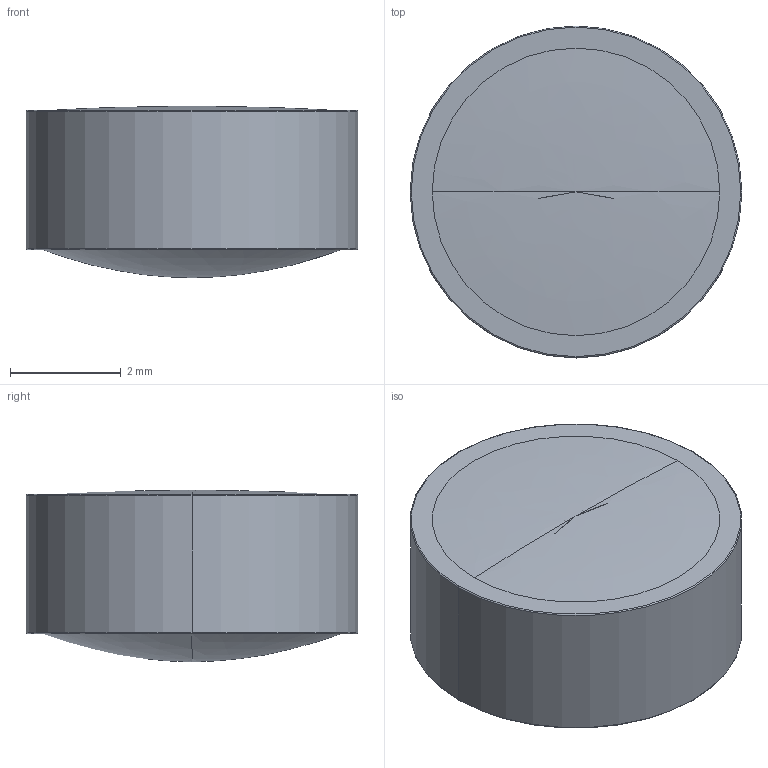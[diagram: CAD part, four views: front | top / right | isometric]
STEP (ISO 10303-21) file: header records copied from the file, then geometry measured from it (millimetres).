
FILE_DESCRIPTION((''),'2;1');
FILE_NAME('354064','2025-07-27T10:35:53',('admin'),('LIGHTPATH'),'CREO PARAMETRIC BY PTC INC, 2024063','CREO PARAMETRIC BY PTC INC, 2024063','');
FILE_SCHEMA(('CONFIG_CONTROL_DESIGN'));
Length unit declared in the file: millimetre
Products named in the file (1): 354064
Bounding box: 6 x 6 x 3.1 mm (x, y, z)
Volume: 77.8 mm3; surface area: 104.5 mm2
Topology: 1 solids, 1 shells, 14 faces, 30 edges, 16 vertices
Faces by surface type: torus 6, revolution 4, plane 2, cylinder 2
Entity records: 974 total; most frequent: CARTESIAN_POINT 642, DIRECTION 66, ORIENTED_EDGE 52, AXIS2_PLACEMENT_3D 30, EDGE_CURVE 26, CIRCLE 20, VERTEX_POINT 16, EDGE_LOOP 16
